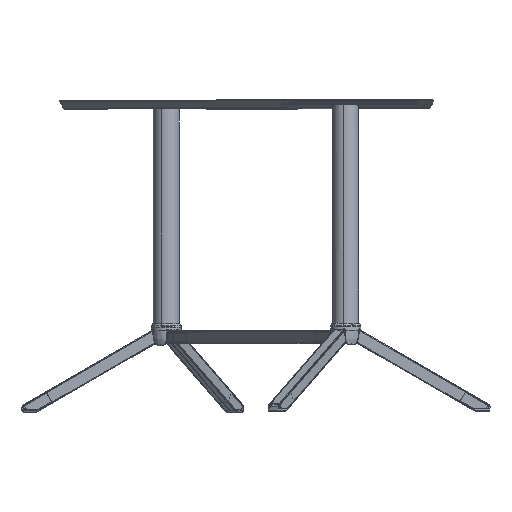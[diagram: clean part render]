
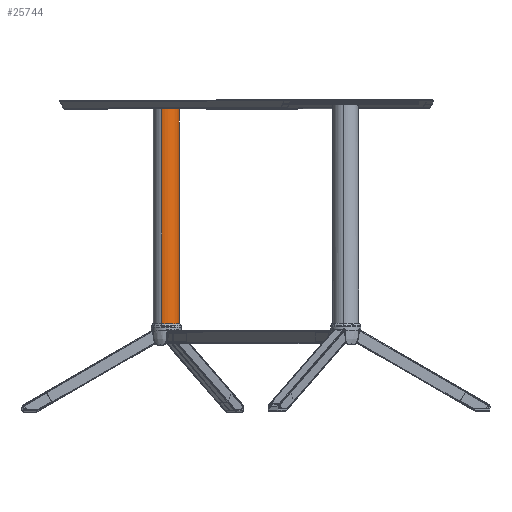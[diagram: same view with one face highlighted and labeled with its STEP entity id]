
A CAD part, top view. The second image highlights one B-rep face of the part: STEP entity #25744.
In plain terms, the highlighted cylindrical face has radius 30 mm (diameter 60 mm), a partial arc.
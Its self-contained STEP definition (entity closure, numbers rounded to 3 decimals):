
#585 = DIRECTION ( 'NONE',  ( -1., 0., 0. ) ) ;
#1092 = CARTESIAN_POINT ( 'NONE',  ( 0., 0., -4.3 ) ) ;
#1514 = VERTEX_POINT ( 'NONE', #29891 ) ;
#1857 = ORIENTED_EDGE ( 'NONE', *, *, #9598, .T. ) ;
#1945 = EDGE_CURVE ( 'NONE', #6152, #1514, #20985, .T. ) ;
#2085 = DIRECTION ( 'NONE',  ( 0., 0., 1. ) ) ;
#2166 = EDGE_CURVE ( 'NONE', #4815, #20304, #20526, .T. ) ;
#2288 = CARTESIAN_POINT ( 'NONE',  ( -30., 0., -515. ) ) ;
#2491 = CARTESIAN_POINT ( 'NONE',  ( 0., 0., -4.3 ) ) ;
#2557 = CARTESIAN_POINT ( 'NONE',  ( 0., 0., -515. ) ) ;
#2876 = ORIENTED_EDGE ( 'NONE', *, *, #17013, .F. ) ;
#2907 = AXIS2_PLACEMENT_3D ( 'NONE', #32573, #25927, #22743 ) ;
#3294 = CARTESIAN_POINT ( 'NONE',  ( 0., 0., -515. ) ) ;
#3725 = ORIENTED_EDGE ( 'NONE', *, *, #1945, .F. ) ;
#3786 = CARTESIAN_POINT ( 'NONE',  ( 29.795, -3.5, -511.5 ) ) ;
#3978 = ORIENTED_EDGE ( 'NONE', *, *, #27066, .T. ) ;
#4541 = CARTESIAN_POINT ( 'NONE',  ( -29.795, -3.5, -515. ) ) ;
#4639 = CIRCLE ( 'NONE', #2907, 30. ) ;
#4815 = VERTEX_POINT ( 'NONE', #14433 ) ;
#5032 = EDGE_CURVE ( 'NONE', #14259, #26722, #11193, .T. ) ;
#5221 = VERTEX_POINT ( 'NONE', #26689 ) ;
#5562 = CARTESIAN_POINT ( 'NONE',  ( -29.768, -3.724, -4.3 ) ) ;
#5655 = DIRECTION ( 'NONE',  ( 1., 0., 0. ) ) ;
#6152 = VERTEX_POINT ( 'NONE', #25949 ) ;
#6471 = ORIENTED_EDGE ( 'NONE', *, *, #11392, .T. ) ;
#7001 = CIRCLE ( 'NONE', #8028, 30. ) ;
#8028 = AXIS2_PLACEMENT_3D ( 'NONE', #3294, #2085, #24295 ) ;
#8146 = LINE ( 'NONE', #13142, #12673 ) ;
#8987 = DIRECTION ( 'NONE',  ( 0., 0., 1. ) ) ;
#9598 = EDGE_CURVE ( 'NONE', #26483, #14329, #9693, .T. ) ;
#9693 = CIRCLE ( 'NONE', #24518, 30. ) ;
#10101 = VERTEX_POINT ( 'NONE', #3786 ) ;
#10147 = ORIENTED_EDGE ( 'NONE', *, *, #2166, .T. ) ;
#11113 = DIRECTION ( 'NONE',  ( 0., 0., -1. ) ) ;
#11193 = LINE ( 'NONE', #2288, #16939 ) ;
#11392 = EDGE_CURVE ( 'NONE', #5221, #26483, #26030, .T. ) ;
#11510 = ORIENTED_EDGE ( 'NONE', *, *, #27098, .F. ) ;
#12045 = CYLINDRICAL_SURFACE ( 'NONE', #27895, 30. ) ;
#12245 = CARTESIAN_POINT ( 'NONE',  ( 0., 0., -511.5 ) ) ;
#12673 = VECTOR ( 'NONE', #18149, 1000. ) ;
#13142 = CARTESIAN_POINT ( 'NONE',  ( 29.795, -3.5, -511.5 ) ) ;
#13420 = VECTOR ( 'NONE', #13875, 1000. ) ;
#13875 = DIRECTION ( 'NONE',  ( 0., 0., 1. ) ) ;
#14022 = DIRECTION ( 'NONE',  ( 0., 0., 1. ) ) ;
#14154 = DIRECTION ( 'NONE',  ( -1., 0., 0. ) ) ;
#14259 = VERTEX_POINT ( 'NONE', #19705 ) ;
#14329 = VERTEX_POINT ( 'NONE', #20407 ) ;
#14433 = CARTESIAN_POINT ( 'NONE',  ( -29.795, -3.5, -511.5 ) ) ;
#14942 = VECTOR ( 'NONE', #14022, 1000. ) ;
#15059 = ORIENTED_EDGE ( 'NONE', *, *, #19403, .F. ) ;
#16939 = VECTOR ( 'NONE', #8987, 1000. ) ;
#17013 = EDGE_CURVE ( 'NONE', #5221, #10101, #17459, .T. ) ;
#17459 = CIRCLE ( 'NONE', #21509, 30. ) ;
#17749 = CARTESIAN_POINT ( 'NONE',  ( 30., 0., -515. ) ) ;
#17967 = ORIENTED_EDGE ( 'NONE', *, *, #28719, .F. ) ;
#18149 = DIRECTION ( 'NONE',  ( 0., 0., -1. ) ) ;
#18392 = DIRECTION ( 'NONE',  ( 0., 0., 1. ) ) ;
#19106 = LINE ( 'NONE', #19677, #23551 ) ;
#19403 = EDGE_CURVE ( 'NONE', #10101, #26233, #8146, .T. ) ;
#19677 = CARTESIAN_POINT ( 'NONE',  ( -29.768, -3.724, -515. ) ) ;
#19705 = CARTESIAN_POINT ( 'NONE',  ( -30., 0., -511.5 ) ) ;
#19974 = CARTESIAN_POINT ( 'NONE',  ( -29.795, -3.5, -511.5 ) ) ;
#20304 = VERTEX_POINT ( 'NONE', #4541 ) ;
#20407 = CARTESIAN_POINT ( 'NONE',  ( 29.768, -3.724, -4.3 ) ) ;
#20526 = LINE ( 'NONE', #19974, #32356 ) ;
#20557 = DIRECTION ( 'NONE',  ( 1., 0., 0. ) ) ;
#20675 = VERTEX_POINT ( 'NONE', #5562 ) ;
#20985 = CIRCLE ( 'NONE', #25189, 30. ) ;
#21509 = AXIS2_PLACEMENT_3D ( 'NONE', #12245, #25527, #585 ) ;
#22025 = DIRECTION ( 'NONE',  ( -1., 0., 0. ) ) ;
#22262 = EDGE_LOOP ( 'NONE', ( #2876, #6471, #1857, #23940, #3725, #17967, #31069, #28660, #11510, #10147, #3978, #15059 ) ) ;
#22371 = LINE ( 'NONE', #24013, #14942 ) ;
#22481 = AXIS2_PLACEMENT_3D ( 'NONE', #1092, #11113, #20557 ) ;
#22743 = DIRECTION ( 'NONE',  ( 1., 0., 0. ) ) ;
#22834 = CARTESIAN_POINT ( 'NONE',  ( 0., 0., 0. ) ) ;
#23551 = VECTOR ( 'NONE', #28505, 1000. ) ;
#23772 = EDGE_CURVE ( 'NONE', #20675, #26722, #31532, .T. ) ;
#23940 = ORIENTED_EDGE ( 'NONE', *, *, #28335, .T. ) ;
#24013 = CARTESIAN_POINT ( 'NONE',  ( 29.768, -3.724, -515. ) ) ;
#24295 = DIRECTION ( 'NONE',  ( 1., 0., 0. ) ) ;
#24518 = AXIS2_PLACEMENT_3D ( 'NONE', #2491, #29103, #14154 ) ;
#25189 = AXIS2_PLACEMENT_3D ( 'NONE', #22834, #18392, #5655 ) ;
#25527 = DIRECTION ( 'NONE',  ( 0., 0., -1. ) ) ;
#25744 = ADVANCED_FACE ( 'NONE', ( #26412 ), #12045, .T. ) ;
#25927 = DIRECTION ( 'NONE',  ( 0., 0., -1. ) ) ;
#25949 = CARTESIAN_POINT ( 'NONE',  ( -29.768, -3.724, 0. ) ) ;
#26030 = LINE ( 'NONE', #17749, #13420 ) ;
#26107 = CARTESIAN_POINT ( 'NONE',  ( -30., 0., -4.3 ) ) ;
#26233 = VERTEX_POINT ( 'NONE', #32600 ) ;
#26412 = FACE_OUTER_BOUND ( 'NONE', #22262, .T. ) ;
#26483 = VERTEX_POINT ( 'NONE', #31616 ) ;
#26689 = CARTESIAN_POINT ( 'NONE',  ( 30., 0., -511.5 ) ) ;
#26722 = VERTEX_POINT ( 'NONE', #26107 ) ;
#27066 = EDGE_CURVE ( 'NONE', #20304, #26233, #7001, .T. ) ;
#27098 = EDGE_CURVE ( 'NONE', #4815, #14259, #4639, .T. ) ;
#27685 = DIRECTION ( 'NONE',  ( 0., 0., -1. ) ) ;
#27895 = AXIS2_PLACEMENT_3D ( 'NONE', #2557, #28077, #22025 ) ;
#28077 = DIRECTION ( 'NONE',  ( 0., 0., 1. ) ) ;
#28335 = EDGE_CURVE ( 'NONE', #14329, #1514, #22371, .T. ) ;
#28505 = DIRECTION ( 'NONE',  ( 0., 0., 1. ) ) ;
#28660 = ORIENTED_EDGE ( 'NONE', *, *, #5032, .F. ) ;
#28719 = EDGE_CURVE ( 'NONE', #20675, #6152, #19106, .T. ) ;
#29103 = DIRECTION ( 'NONE',  ( 0., 0., -1. ) ) ;
#29891 = CARTESIAN_POINT ( 'NONE',  ( 29.768, -3.724, 0. ) ) ;
#31069 = ORIENTED_EDGE ( 'NONE', *, *, #23772, .T. ) ;
#31532 = CIRCLE ( 'NONE', #22481, 30. ) ;
#31616 = CARTESIAN_POINT ( 'NONE',  ( 30., 0., -4.3 ) ) ;
#32356 = VECTOR ( 'NONE', #27685, 1000. ) ;
#32573 = CARTESIAN_POINT ( 'NONE',  ( 0., 0., -511.5 ) ) ;
#32600 = CARTESIAN_POINT ( 'NONE',  ( 29.795, -3.5, -515. ) ) ;
